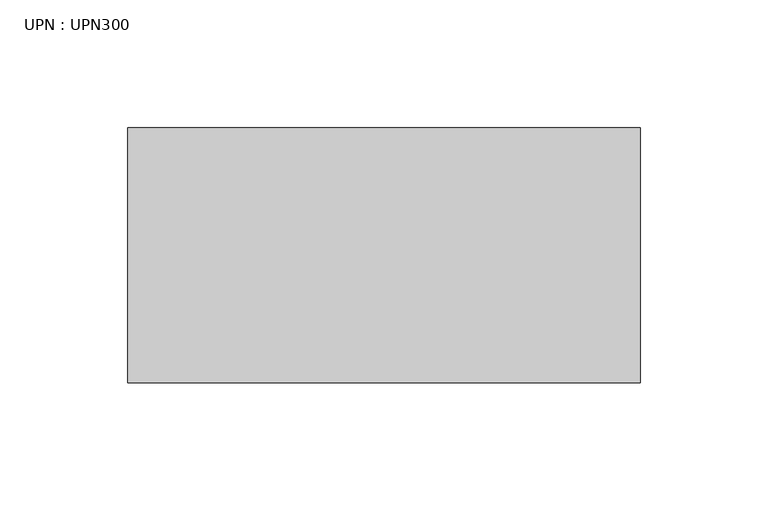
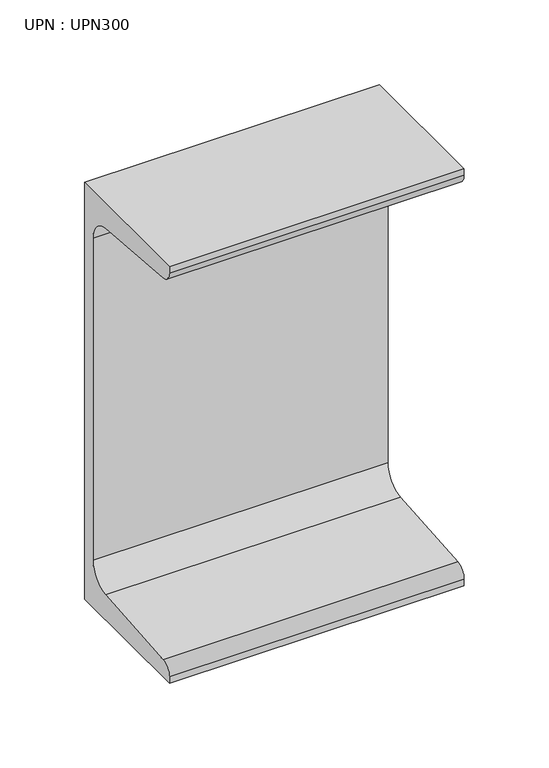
"""IFC4 building model written with IfcOpenShell, lengths in millimetres: beam geometry, UPN : UPN300."""

from ifc_helpers import new_model, si_unit, point, frame, frame_2d, origin, place, context, project, spatial, polyline, circle_curve, trimmed, segment, composite_curve, outline, extrude, source, transform, mapped, element, save


def upn_upn300_74a305d1(model_context):
    return source(origin(), model_context, "Body", "SweptSolid", [
        extrude(outline(composite_curve([segment(polyline([(27.0, 150.0), (27.0, -150.0), (-73.0, -150.0), (-73.0, -145.3826224)]), True, "CONTINUOUS"), segment(trimmed(circle_curve(frame_2d((-65.0, -145.3826224)), 8.0), [point((-73.0, -145.3826224))], [point((-65.637416, -137.4080566))], False, "CARTESIAN"), True, "CONTINUOUS"), segment(polyline([(-65.637416, -137.4080566), (2.274832, -131.9797543)]), True, "CONTINUOUS"), segment(trimmed(circle_curve(frame_2d((1.0, -116.0306225)), 16.0), [point((2.274832, -131.9797543))], [point((17.0, -116.0306225))], True, "CARTESIAN"), True, "CONTINUOUS"), segment(polyline([(17.0, -116.0306225), (17.0, 116.0306225)]), True, "CONTINUOUS"), segment(trimmed(circle_curve(frame_2d((1.0, 116.0306225)), 16.0), [point((17.0, 116.0306225))], [point((2.274832, 131.9797543))], True, "CARTESIAN"), True, "CONTINUOUS"), segment(polyline([(2.274832, 131.9797543), (-65.637416, 137.4080566)]), True, "CONTINUOUS"), segment(trimmed(circle_curve(frame_2d((-65.0, 145.3826224)), 8.0), [point((-65.637416, 137.4080566))], [point((-73.0, 145.3826224))], False, "CARTESIAN"), True, "CONTINUOUS"), segment(polyline([(-73.0, 145.3826224), (-73.0, 150.0), (27.0, 150.0)]), True, "CONTINUOUS")], self_intersect=False)), frame((-86.9, 0.0, 0.0), z_axis=(1.0, 0.0, 0.0), x_axis=(0.0, 1.0, 0.0)), (0.0, 0.0, 1.0), 200.9),
    ])


if __name__ == "__main__":
    model = new_model("IFC4")
    model_context = context("Model", 3, world=origin())
    ifc_project = project(units=[si_unit("LENGTHUNIT", "METRE", prefix="MILLI")], contexts=[model_context])
    site = spatial("IfcSite", under=ifc_project)
    building = spatial("IfcBuilding", under=site)
    placement = place(None, origin())
    upn_upn300_shape = upn_upn300_74a305d1(model_context)
    element("IfcBeam", 1, ObjectType="UPN : UPN300", at=placement, inside=building, context=model_context, shape_type="MappedRepresentation", body=[
        mapped(upn_upn300_shape, transform((0.0, 0.0, 0.0), x_axis=(1.0, 0.0, 0.0), y_axis=(0.0, 1.0, 0.0), z_axis=(0.0, 0.0, 1.0))),
    ])
    save(model, "model.ifc")
